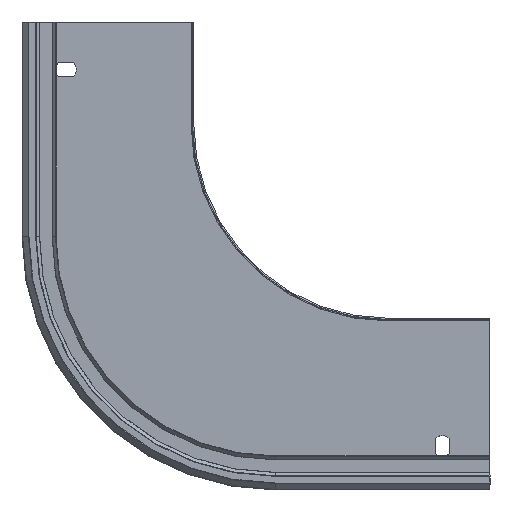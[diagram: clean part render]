
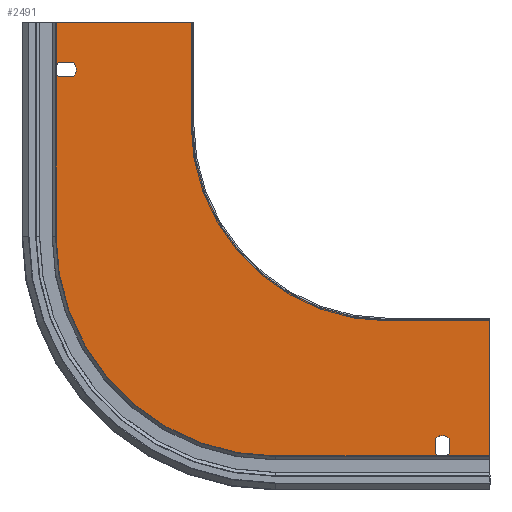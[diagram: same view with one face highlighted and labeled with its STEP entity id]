
A CAD part, left-side view. The second image highlights one B-rep face of the part: STEP entity #2491.
In plain terms, the highlighted planar face has unit normal (-1, 0, 0).
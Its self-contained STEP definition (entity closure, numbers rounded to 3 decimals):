
#42 = VERTEX_POINT ( 'NONE', #3399 ) ;
#48 = EDGE_CURVE ( 'NONE', #4972, #1937, #999, .T. ) ;
#76 = FACE_BOUND ( 'NONE', #4188, .T. ) ;
#93 = LINE ( 'NONE', #2364, #4798 ) ;
#154 = CARTESIAN_POINT ( 'NONE',  ( 0., 175.2, -195.2 ) ) ;
#243 = PLANE ( 'NONE',  #3369 ) ;
#282 = LINE ( 'NONE', #4469, #1165 ) ;
#328 = EDGE_CURVE ( 'NONE', #4588, #635, #4578, .T. ) ;
#337 = CARTESIAN_POINT ( 'NONE',  ( 0., 253.672, -231.2 ) ) ;
#356 = CARTESIAN_POINT ( 'NONE',  ( 0., 32., -10.472 ) ) ;
#568 = CARTESIAN_POINT ( 'NONE',  ( 0., 244.728, -231.2 ) ) ;
#587 = CARTESIAN_POINT ( 'NONE',  ( 0., 126., -129.2 ) ) ;
#635 = VERTEX_POINT ( 'NONE', #2375 ) ;
#697 = EDGE_CURVE ( 'NONE', #1802, #3586, #2282, .T. ) ;
#702 = ORIENTED_EDGE ( 'NONE', *, *, #2827, .T. ) ;
#705 = DIRECTION ( 'NONE',  ( 0., 1., 0. ) ) ;
#719 = ORIENTED_EDGE ( 'NONE', *, *, #5850, .T. ) ;
#795 = EDGE_CURVE ( 'NONE', #3650, #4972, #3350, .T. ) ;
#878 = DIRECTION ( 'NONE',  ( 1., 0., 0. ) ) ;
#999 = LINE ( 'NONE', #2831, #3047 ) ;
#1105 = VERTEX_POINT ( 'NONE', #3679 ) ;
#1143 = VECTOR ( 'NONE', #4702, 1000. ) ;
#1165 = VECTOR ( 'NONE', #705, 1000. ) ;
#1257 = VECTOR ( 'NONE', #4962, 1000. ) ;
#1276 = AXIS2_PLACEMENT_3D ( 'NONE', #1365, #878, #3158 ) ;
#1352 = CIRCLE ( 'NONE', #2688, 6. ) ;
#1365 = CARTESIAN_POINT ( 'NONE',  ( 0., 28., -6. ) ) ;
#1378 = VERTEX_POINT ( 'NONE', #5803 ) ;
#1397 = ORIENTED_EDGE ( 'NONE', *, *, #2464, .T. ) ;
#1414 = CARTESIAN_POINT ( 'NONE',  ( 0., 60., -80. ) ) ;
#1444 = CARTESIAN_POINT ( 'NONE',  ( 0., 0., -80. ) ) ;
#1450 = ORIENTED_EDGE ( 'NONE', *, *, #5061, .T. ) ;
#1517 = EDGE_LOOP ( 'NONE', ( #3698, #1867, #4542, #3567, #2655, #3508, #3216, #3780 ) ) ;
#1545 = CIRCLE ( 'NONE', #5179, 6. ) ;
#1558 = CARTESIAN_POINT ( 'NONE',  ( 0., 28., -12. ) ) ;
#1560 = CIRCLE ( 'NONE', #1276, 6. ) ;
#1572 = ORIENTED_EDGE ( 'NONE', *, *, #48, .T. ) ;
#1685 = EDGE_CURVE ( 'NONE', #635, #42, #2882, .T. ) ;
#1691 = LINE ( 'NONE', #4376, #4240 ) ;
#1735 = CARTESIAN_POINT ( 'NONE',  ( 0., 24., 0. ) ) ;
#1802 = VERTEX_POINT ( 'NONE', #2085 ) ;
#1867 = ORIENTED_EDGE ( 'NONE', *, *, #3923, .F. ) ;
#1872 = DIRECTION ( 'NONE',  ( 1., 0., 0. ) ) ;
#1874 = DIRECTION ( 'NONE',  ( 0., 0., -1. ) ) ;
#1936 = FACE_OUTER_BOUND ( 'NONE', #1517, .T. ) ;
#1937 = VERTEX_POINT ( 'NONE', #5055 ) ;
#1978 = EDGE_CURVE ( 'NONE', #2542, #4596, #3661, .T. ) ;
#2017 = CIRCLE ( 'NONE', #5363, 129.531 ) ;
#2042 = CARTESIAN_POINT ( 'NONE',  ( 0., 255.531, -129.2 ) ) ;
#2085 = CARTESIAN_POINT ( 'NONE',  ( 0., 244.728, -223.2 ) ) ;
#2176 = CARTESIAN_POINT ( 'NONE',  ( 0., 60., -195.2 ) ) ;
#2224 = CARTESIAN_POINT ( 'NONE',  ( 0., 126., 0.331 ) ) ;
#2282 = CIRCLE ( 'NONE', #3533, 6. ) ;
#2294 = EDGE_LOOP ( 'NONE', ( #1572, #1397, #3881, #719, #5348 ) ) ;
#2329 = CARTESIAN_POINT ( 'NONE',  ( 0., 0., 0. ) ) ;
#2364 = CARTESIAN_POINT ( 'NONE',  ( 0., 174.2, -255.2 ) ) ;
#2375 = CARTESIAN_POINT ( 'NONE',  ( 0., 175.2, -195.2 ) ) ;
#2390 = LINE ( 'NONE', #2848, #4712 ) ;
#2440 = VERTEX_POINT ( 'NONE', #3558 ) ;
#2464 = EDGE_CURVE ( 'NONE', #1937, #1378, #1352, .T. ) ;
#2490 = VECTOR ( 'NONE', #4960, 1000. ) ;
#2491 = ADVANCED_FACE ( 'NONE', ( #4657, #76, #1936 ), #243, .F. ) ;
#2500 = VECTOR ( 'NONE', #5618, 1000. ) ;
#2542 = VERTEX_POINT ( 'NONE', #4183 ) ;
#2555 = VERTEX_POINT ( 'NONE', #2042 ) ;
#2655 = ORIENTED_EDGE ( 'NONE', *, *, #3559, .F. ) ;
#2688 = AXIS2_PLACEMENT_3D ( 'NONE', #3401, #5665, #2943 ) ;
#2815 = CARTESIAN_POINT ( 'NONE',  ( 0., 249.2, -227.2 ) ) ;
#2827 = EDGE_CURVE ( 'NONE', #5630, #1802, #2990, .T. ) ;
#2831 = CARTESIAN_POINT ( 'NONE',  ( 0., 32., 0. ) ) ;
#2848 = CARTESIAN_POINT ( 'NONE',  ( 0., 0., -231.2 ) ) ;
#2882 = LINE ( 'NONE', #154, #1143 ) ;
#2907 = LINE ( 'NONE', #5594, #5261 ) ;
#2923 = DIRECTION ( 'NONE',  ( 0., 0., 1. ) ) ;
#2943 = DIRECTION ( 'NONE',  ( 0., 0., -1. ) ) ;
#2990 = LINE ( 'NONE', #5256, #2500 ) ;
#3001 = EDGE_CURVE ( 'NONE', #4442, #5630, #1545, .T. ) ;
#3047 = VECTOR ( 'NONE', #4647, 1000. ) ;
#3158 = DIRECTION ( 'NONE',  ( 0., 0., -1. ) ) ;
#3216 = ORIENTED_EDGE ( 'NONE', *, *, #328, .F. ) ;
#3250 = AXIS2_PLACEMENT_3D ( 'NONE', #5610, #4242, #4767 ) ;
#3335 = VERTEX_POINT ( 'NONE', #2224 ) ;
#3350 = CIRCLE ( 'NONE', #3250, 6. ) ;
#3369 = AXIS2_PLACEMENT_3D ( 'NONE', #5691, #5075, #1874 ) ;
#3399 = CARTESIAN_POINT ( 'NONE',  ( 0., 175.2, -255.2 ) ) ;
#3401 = CARTESIAN_POINT ( 'NONE',  ( 0., 28., -6. ) ) ;
#3508 = ORIENTED_EDGE ( 'NONE', *, *, #1685, .F. ) ;
#3513 = ORIENTED_EDGE ( 'NONE', *, *, #697, .T. ) ;
#3533 = AXIS2_PLACEMENT_3D ( 'NONE', #4152, #1872, #4559 ) ;
#3558 = CARTESIAN_POINT ( 'NONE',  ( 0., 255.531, -255.2 ) ) ;
#3559 = EDGE_CURVE ( 'NONE', #42, #2440, #93, .T. ) ;
#3567 = ORIENTED_EDGE ( 'NONE', *, *, #5756, .T. ) ;
#3585 = ORIENTED_EDGE ( 'NONE', *, *, #3001, .T. ) ;
#3586 = VERTEX_POINT ( 'NONE', #568 ) ;
#3650 = VERTEX_POINT ( 'NONE', #1558 ) ;
#3661 = LINE ( 'NONE', #2329, #2490 ) ;
#3679 = CARTESIAN_POINT ( 'NONE',  ( 0., 24., -10.472 ) ) ;
#3698 = ORIENTED_EDGE ( 'NONE', *, *, #1978, .F. ) ;
#3780 = ORIENTED_EDGE ( 'NONE', *, *, #4067, .F. ) ;
#3859 = CARTESIAN_POINT ( 'NONE',  ( 0., 253.672, -223.2 ) ) ;
#3881 = ORIENTED_EDGE ( 'NONE', *, *, #4874, .T. ) ;
#3923 = EDGE_CURVE ( 'NONE', #3335, #2542, #2907, .T. ) ;
#4018 = LINE ( 'NONE', #1735, #1257 ) ;
#4067 = EDGE_CURVE ( 'NONE', #4596, #4588, #282, .T. ) ;
#4107 = DIRECTION ( 'NONE',  ( 0., 0., 1. ) ) ;
#4152 = CARTESIAN_POINT ( 'NONE',  ( 0., 249.2, -227.2 ) ) ;
#4160 = DIRECTION ( 'NONE',  ( 1., 0., 0. ) ) ;
#4183 = CARTESIAN_POINT ( 'NONE',  ( 0., 0., 0.331 ) ) ;
#4188 = EDGE_LOOP ( 'NONE', ( #1450, #3585, #702, #3513 ) ) ;
#4240 = VECTOR ( 'NONE', #4465, 1000. ) ;
#4242 = DIRECTION ( 'NONE',  ( 1., 0., 0. ) ) ;
#4347 = EDGE_CURVE ( 'NONE', #3335, #2555, #2017, .T. ) ;
#4376 = CARTESIAN_POINT ( 'NONE',  ( 0., 255.531, -129.2 ) ) ;
#4442 = VERTEX_POINT ( 'NONE', #337 ) ;
#4465 = DIRECTION ( 'NONE',  ( 0., 0., -1. ) ) ;
#4469 = CARTESIAN_POINT ( 'NONE',  ( 0., 0., -80. ) ) ;
#4471 = AXIS2_PLACEMENT_3D ( 'NONE', #2176, #5392, #4107 ) ;
#4542 = ORIENTED_EDGE ( 'NONE', *, *, #4347, .T. ) ;
#4559 = DIRECTION ( 'NONE',  ( 0., 0., -1. ) ) ;
#4578 = CIRCLE ( 'NONE', #4471, 115.2 ) ;
#4588 = VERTEX_POINT ( 'NONE', #1414 ) ;
#4596 = VERTEX_POINT ( 'NONE', #1444 ) ;
#4647 = DIRECTION ( 'NONE',  ( 0., 0., 1. ) ) ;
#4657 = FACE_BOUND ( 'NONE', #2294, .T. ) ;
#4666 = DIRECTION ( 'NONE',  ( 0., 1., 0. ) ) ;
#4702 = DIRECTION ( 'NONE',  ( 0., 0., -1. ) ) ;
#4712 = VECTOR ( 'NONE', #4666, 1000. ) ;
#4767 = DIRECTION ( 'NONE',  ( 0., 0., -1. ) ) ;
#4798 = VECTOR ( 'NONE', #5515, 1000. ) ;
#4874 = EDGE_CURVE ( 'NONE', #1378, #1105, #4018, .T. ) ;
#4960 = DIRECTION ( 'NONE',  ( 0., 0., -1. ) ) ;
#4962 = DIRECTION ( 'NONE',  ( 0., 0., -1. ) ) ;
#4972 = VERTEX_POINT ( 'NONE', #356 ) ;
#5055 = CARTESIAN_POINT ( 'NONE',  ( 0., 32., -1.528 ) ) ;
#5061 = EDGE_CURVE ( 'NONE', #3586, #4442, #2390, .T. ) ;
#5075 = DIRECTION ( 'NONE',  ( 1., 0., 0. ) ) ;
#5179 = AXIS2_PLACEMENT_3D ( 'NONE', #2815, #4160, #5437 ) ;
#5256 = CARTESIAN_POINT ( 'NONE',  ( 0., 0., -223.2 ) ) ;
#5261 = VECTOR ( 'NONE', #5616, 1000. ) ;
#5306 = DIRECTION ( 'NONE',  ( -1., 0., 0. ) ) ;
#5348 = ORIENTED_EDGE ( 'NONE', *, *, #795, .T. ) ;
#5363 = AXIS2_PLACEMENT_3D ( 'NONE', #587, #5306, #2923 ) ;
#5392 = DIRECTION ( 'NONE',  ( -1., 0., 0. ) ) ;
#5437 = DIRECTION ( 'NONE',  ( 0., 0., -1. ) ) ;
#5515 = DIRECTION ( 'NONE',  ( 0., 1., 0. ) ) ;
#5594 = CARTESIAN_POINT ( 'NONE',  ( 0., 126., 0.331 ) ) ;
#5610 = CARTESIAN_POINT ( 'NONE',  ( 0., 28., -6. ) ) ;
#5616 = DIRECTION ( 'NONE',  ( 0., -1., 0. ) ) ;
#5618 = DIRECTION ( 'NONE',  ( 0., -1., 0. ) ) ;
#5630 = VERTEX_POINT ( 'NONE', #3859 ) ;
#5665 = DIRECTION ( 'NONE',  ( 1., 0., 0. ) ) ;
#5691 = CARTESIAN_POINT ( 'NONE',  ( 0., 0., 0. ) ) ;
#5756 = EDGE_CURVE ( 'NONE', #2555, #2440, #1691, .T. ) ;
#5803 = CARTESIAN_POINT ( 'NONE',  ( 0., 24., -1.528 ) ) ;
#5850 = EDGE_CURVE ( 'NONE', #1105, #3650, #1560, .T. ) ;
